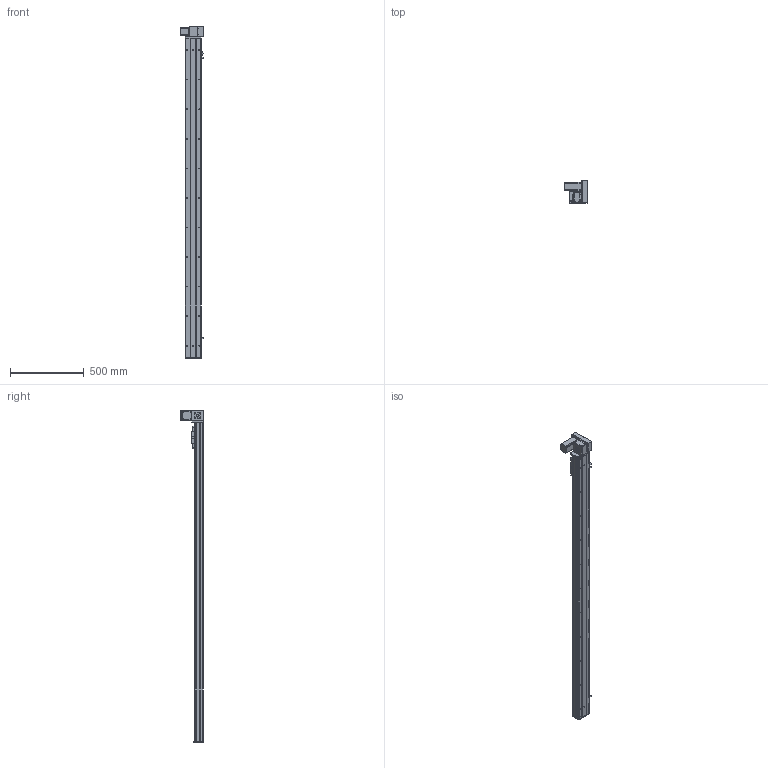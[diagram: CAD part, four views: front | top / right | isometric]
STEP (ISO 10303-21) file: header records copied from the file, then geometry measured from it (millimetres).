
FILE_DESCRIPTION (( 'STEP AP203' ), '1' );
FILE_NAME ('Y10CB-D90-S1900-UR-P400W.STEP', '2020-02-16T03:59:26', ( '微软用户' ), ( '微软中国' ), 'SwSTEP 2.0', 'SolidWorks 2017', '' );
FILE_SCHEMA (( 'CONFIG_CONTROL_DESIGN' ));
Length unit declared in the file: millimetre
Products named in the file (18): Y10CB-D90-S1900-UR-P400W; Y10C---詩湍揤啣; 0Cb-俋欶---; 10CB9-掛极; Y10B-々湍喘謫眊楊擘啣--; 10CB-耜裔; 0B-萇儂楊擘啣; Y135C-陔俋离換覜結え-; san松下电机400不带刹车----; Y100-135俋离換覜ん--; 0B-源倛裔啣; Y10B--々湍喘謫眊--666; 0B-埴倛裔啣; Y10B-耜蚾蟀諉啣----; 10CB-詩湍-; 00B-俋欶BM--; Y10CB- 掛极耜裔啣-毀---; 0CB-雄赽釱---
Assembly tree (21 placements, depth 2):
  Y10CB-D90-S1900-UR-P400W
    0CB-雄赽釱---
    0Cb-俋欶---
    Y10B-々湍喘謫眊楊擘啣--
    0B-萇儂楊擘啣
    san松下电机400不带刹车----
    0B-源倛裔啣
    0B-埴倛裔啣
    10CB-詩湍-
    Y10CB- 掛极耜裔啣-毀---  x2
    Y10C---詩湍揤啣  x2
    10CB9-掛极
    10CB-耜裔
    Y135C-陔俋离換覜結え-
    Y100-135俋离換覜ん--  x3
    Y10B--々湍喘謫眊--666
    Y10B-耜蚾蟀諉啣----
    00B-俋欶BM--
Bounding box: 157 x 155.5 x 2246 mm (x, y, z)
Volume: 4706545.2 mm3; surface area: 2203784.2 mm2
Topology: 21 solids, 21 shells, 1038 faces, 2803 edges, 1826 vertices
Faces by surface type: cylinder 529, plane 485, cone 24
Entity records: 32912 total; most frequent: CARTESIAN_POINT 6061, DIRECTION 5270, ORIENTED_EDGE 5076, EDGE_CURVE 2538, AXIS2_PLACEMENT_3D 1885, VERTEX_POINT 1652, LINE 1500, VECTOR 1500
